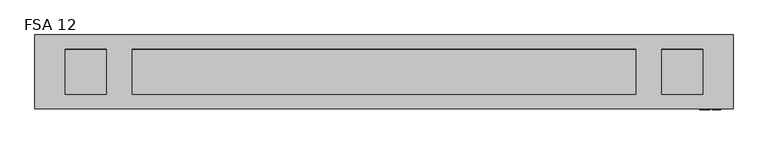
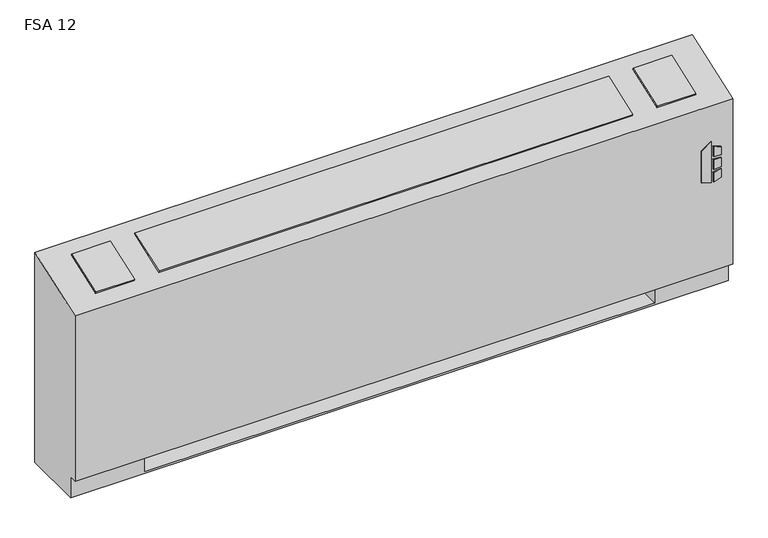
"""IFC4 building model written with IfcOpenShell, lengths in millimetres: proxy geometry, Vertical_Fan_Coil_Unit_-_FSA_-_IEC_-_2-Pipe_TS-FR_LH_2022 : FSA 12."""

from ifc_helpers import new_model, si_unit, point, frame, frame_2d, origin, place, context, project, spatial, polyline, circle_curve, trimmed, segment, composite_curve, outline, extrude, source, transform, mapped, element, save
from ifc_brep_helpers import plane_surface, revolved_surface, advanced_brep


def fsa_12_32ce60d5(model_context):
    return source(origin(), model_context, "Body", "SolidModel", [
        extrude(outline(polyline([(391.6086829, 1128.7868862), (381.6606126, 1160.9602728), (523.831537, 1160.9602728), (500.8095309, 1128.7868862), (391.6086829, 1128.7868862)])), frame((0.0, 12.7, 0.0), z_axis=(0.0, 1.0, 0.0), x_axis=(0.0, 0.0, 1.0)), (0.0, 0.0, 1.0), 3.175),
        extrude(outline(polyline([(470.6079683, 1167.7186058), (467.4055757, 1193.8), (496.6344168, 1193.8), (504.6988318, 1167.7186058), (470.6079683, 1167.7186058)])), frame((0.0, 12.7, 0.0), z_axis=(0.0, 1.0, 0.0), x_axis=(0.0, 0.0, 1.0)), (0.0, 0.0, 1.0), 3.175),
        extrude(outline(polyline([(418.7444414, 1193.8), (415.0789404, 1167.7186058), (381.6606126, 1167.7186058), (390.2948498, 1193.8), (418.7444414, 1193.8)])), frame((0.0, 12.7, 0.0), z_axis=(0.0, 1.0, 0.0), x_axis=(0.0, 0.0, 1.0)), (0.0, 0.0, 1.0), 3.175),
        extrude(outline(polyline([(458.0596028, 1193.8), (460.3414292, 1167.7186058), (424.4038806, 1167.7186058), (427.1451456, 1193.8), (458.0596028, 1193.8)])), frame((0.0, 12.7, 0.0), z_axis=(0.0, 1.0, 0.0), x_axis=(0.0, 0.0, 1.0)), (0.0, 0.0, 1.0), 3.175),
        extrude(outline(polyline([(1111.25, 223.266), (1111.25, 81.534), (990.6, 81.534), (990.6, 223.266), (1111.25, 223.266)])), frame((0.0, 0.0, 327.025), z_axis=(0.0, 0.0, 1.0), x_axis=(1.0, 0.0, 0.0)), (0.0, 0.0, 1.0), 260.35),
        extrude(outline(composite_curve([segment(trimmed(circle_curve(frame_2d((-749.3, 130.175)), 9.525), [point((-758.825, 130.175))], [point((-739.775, 130.175))], False, "CARTESIAN"), True, "CONTINUOUS"), segment(trimmed(circle_curve(frame_2d((-749.3, 130.175)), 9.525), [point((-739.775, 130.175))], [point((-758.825, 130.175))], False, "CARTESIAN"), True, "CONTINUOUS")], self_intersect=False)), frame((0.0, 0.0, 101.6), z_axis=(0.0, 0.0, 1.0), x_axis=(1.0, 0.0, 0.0)), (0.0, 0.0, 1.0), 25.4),
        extrude(outline(polyline([(-850.9, 63.5), (-850.9, 196.85), (-685.8, 196.85), (-685.8, 63.5), (-850.9, 63.5)])), frame((0.0, 0.0, 127.0), z_axis=(0.0, 0.0, 1.0), x_axis=(1.0, 0.0, 0.0)), (0.0, 0.0, 1.0), 50.8),
        extrude(outline(polyline([(0.0, -146.0500001), (0.0, 0.0), (127.0, 0.0), (127.0, -146.0500001), (0.0, -146.0500001)])), frame((-832.993, 200.4217127, 714.3418685), z_axis=(0.0, -0.3396444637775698, 0.9405538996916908), x_axis=(1.0, 0.0, 0.0)), (0.0, 0.0, 1.0), 6.35),
        extrude(outline(polyline([(0.0, -146.0500001), (0.0, 0.0), (1555.75, 0.0), (1555.75, -146.0500001), (0.0, -146.0500001)])), frame((930.275, 63.0538156, 664.7367945), z_axis=(0.0, -0.33964446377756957, 0.9405538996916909), x_axis=(-1.0, 0.0, 0.0)), (0.0, 0.0, 1.0), 6.35),
        extrude(outline(polyline([(0.0, -146.0500001), (0.0, 0.0), (127.0, 0.0), (127.0, -146.0500001), (0.0, -146.0500001)])), frame((1137.793, 63.0538156, 664.7367945), z_axis=(0.0, -0.3396444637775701, 0.9405538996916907), x_axis=(-1.0, 0.0, 0.0)), (0.0, 0.0, 1.0), 6.35),
        extrude(outline(composite_curve([segment(trimmed(circle_curve(frame_2d((109.347, 456.819)), 7.9375), [point((109.347, 464.7565))], [point((109.347, 448.8815))], False, "CARTESIAN"), True, "CONTINUOUS"), segment(trimmed(circle_curve(frame_2d((109.347, 456.819)), 7.9375), [point((109.347, 448.8815))], [point((109.347, 464.7565))], False, "CARTESIAN"), True, "CONTINUOUS")], self_intersect=False)), frame((-736.6, 0.0, 0.0), z_axis=(1.0, 0.0, 0.0), x_axis=(0.0, 1.0, 0.0)), (0.0, 0.0, 1.0), 50.8),
        extrude(outline(composite_curve([segment(trimmed(circle_curve(frame_2d((157.4546, 429.4632)), 7.9375), [point((157.4546, 437.4007))], [point((157.4546, 421.5257))], False, "CARTESIAN"), True, "CONTINUOUS"), segment(trimmed(circle_curve(frame_2d((157.4546, 429.4632)), 7.9375), [point((157.4546, 421.5257))], [point((157.4546, 437.4007))], False, "CARTESIAN"), True, "CONTINUOUS")], self_intersect=False)), frame((-736.6, 0.0, 0.0), z_axis=(1.0, 0.0, 0.0), x_axis=(0.0, 1.0, 0.0)), (0.0, 0.0, 1.0), 50.8),
        advanced_brep(
        [(-927.1, 244.475, 0.0), (1231.9, 244.475, 0.0), (1231.9, 41.275, 0.0), (-927.1, 41.275, 0.0), (-927.1, 244.475, 730.25), (1231.9, 244.475, 730.25), (990.6, 244.475, 73.025), (1219.2, 244.475, 73.025), (1219.2, 244.475, 654.05), (990.6, 244.475, 654.05), (990.6, 244.475, 414.8650565), (1019.175, 244.475, 414.8650565), (1019.175, 244.475, 385.2349435), (990.6, 244.475, 385.2349435), (990.6, 244.475, 287.3375), (1019.175, 244.475, 287.3375), (1019.175, 244.475, 258.7625), (990.6, 244.475, 258.7625), (990.6, 244.475, 141.2875), (1019.175, 244.475, 141.2875), (1019.175, 244.475, 112.7125), (990.6, 244.475, 112.7125), (-685.8, 244.475, 654.05), (-914.4, 244.475, 654.05), (-914.4, 244.475, 73.025), (-685.8, 244.475, 73.025), (-685.8, 244.475, 112.7125), (-714.375, 244.475, 112.7125), (-714.375, 244.475, 141.2875), (-685.8, 244.475, 141.2875), (-685.8, 244.475, 258.7625), (-714.375, 244.475, 258.7625), (-714.375, 244.475, 287.3375), (-685.8, 244.475, 287.3375), (-685.8, 244.475, 385.2349435), (-714.375, 244.475, 385.2349435), (-714.375, 244.475, 414.8650565), (-685.8, 244.475, 414.8650565), (1008.8626, 244.475, 127.0), (997.7374, 244.475, 127.0), (1008.8626, 244.475, 400.05), (997.7374, 244.475, 400.05), (1008.8626, 244.475, 273.05), (997.7374, 244.475, 273.05), (-692.9374, 244.475, 127.0), (-704.0626, 244.475, 127.0), (-692.9374, 244.475, 273.05), (-704.0626, 244.475, 273.05), (-692.9374, 244.475, 400.05), (-704.0626, 244.475, 400.05), (-927.1, 41.275, 73.025), (-927.1, 15.875, 73.025), (-927.1, 15.875, 647.7), (1231.9, 15.875, 73.025), (1231.9, 15.875, 647.7), (1231.9, 41.275, 73.025), (-685.8, 41.275, 73.025), (-685.8, 225.425, 73.025), (990.6, 225.425, 73.025), (990.6, 41.275, 73.025), (990.6, 41.275, 6.35), (-685.8, 41.275, 6.35), (990.6, 41.275, 654.05), (1219.2, 41.275, 654.05), (1219.2, 41.275, 73.025), (990.6, 41.275, 73.025), (-685.8, 41.275, 654.05), (-685.8, 41.275, 73.025), (-914.4, 41.275, 73.025), (-914.4, 41.275, 654.05), (990.6, 225.425, 73.025), (990.6, 238.125, 112.7125), (990.6, 238.125, 141.2875), (990.6, 238.125, 258.7625), (990.6, 238.125, 287.3375), (990.6, 238.125, 385.2349435), (990.6, 238.125, 414.8650565), (-685.8, 225.425, 73.025), (-685.8, 238.125, 414.8650565), (-685.8, 238.125, 385.2349435), (-685.8, 238.125, 287.3375), (-685.8, 238.125, 258.7625), (-685.8, 238.125, 141.2875), (-685.8, 238.125, 112.7125), (-685.8, 225.425, 6.35), (990.6, 225.425, 6.35), (1019.175, 238.125, 112.7125), (1019.175, 238.125, 141.2875), (997.7374, 238.125, 127.0), (1008.8626, 238.125, 127.0), (1019.175, 238.125, 258.7625), (1019.175, 238.125, 287.3375), (997.7374, 238.125, 273.05), (1008.8626, 238.125, 273.05), (1019.175, 238.125, 385.2349435), (1019.175, 238.125, 414.8650565), (997.7374, 238.125, 400.05), (1008.8626, 238.125, 400.05), (-714.375, 238.125, 141.2875), (-714.375, 238.125, 112.7125), (-704.0626, 238.125, 127.0), (-692.9374, 238.125, 127.0), (-714.375, 238.125, 287.3375), (-714.375, 238.125, 258.7625), (-704.0626, 238.125, 273.05), (-692.9374, 238.125, 273.05), (-714.375, 238.125, 414.8650565), (-714.375, 238.125, 385.2349435), (-704.0626, 238.125, 400.05), (-692.9374, 238.125, 400.05)],
        [
            (0, 1),
            (1, 2),
            (2, 3),
            (3, 0),
            (0, 4),
            (4, 5),
            (5, 1),
            (6, 7),
            (7, 8),
            (8, 9),
            (9, 10),
            (10, 11),
            (11, 12),
            (12, 13),
            (13, 14),
            (14, 15),
            (15, 16),
            (16, 17),
            (17, 18),
            (18, 19),
            (19, 20),
            (20, 21),
            (21, 6),
            (22, 23),
            (23, 24),
            (24, 25),
            (25, 26),
            (26, 27),
            (27, 28),
            (28, 29),
            (29, 30),
            (30, 31),
            (31, 32),
            (32, 33),
            (33, 34),
            (34, 35),
            (35, 36),
            (36, 37),
            (37, 22),
            (38, 39, circle_curve(frame((1003.3, 244.475, 127.0), z_axis=(0.0, -1.0, 0.0), x_axis=(-1.0, 0.0, 0.0)), 5.5626)),
            (39, 38, circle_curve(frame((1003.3, 244.475, 127.0), z_axis=(0.0, -1.0, 0.0), x_axis=(-1.0, 0.0, 0.0)), 5.5626)),
            (40, 41, circle_curve(frame((1003.3, 244.475, 400.05), z_axis=(0.0, -1.0, 0.0), x_axis=(-1.0, 0.0, 0.0)), 5.5626)),
            (41, 40, circle_curve(frame((1003.3, 244.475, 400.05), z_axis=(0.0, -1.0, 0.0), x_axis=(-1.0, 0.0, 0.0)), 5.5626)),
            (42, 43, circle_curve(frame((1003.3, 244.475, 273.05), z_axis=(0.0, -1.0, 0.0), x_axis=(-1.0, 0.0, 0.0)), 5.5626)),
            (43, 42, circle_curve(frame((1003.3, 244.475, 273.05), z_axis=(0.0, -1.0, 0.0), x_axis=(-1.0, 0.0, 0.0)), 5.5626)),
            (44, 45, circle_curve(frame((-698.5, 244.475, 127.0), z_axis=(0.0, -1.0, 0.0), x_axis=(-1.0, 0.0, 0.0)), 5.5626)),
            (45, 44, circle_curve(frame((-698.5, 244.475, 127.0), z_axis=(0.0, -1.0, 0.0), x_axis=(-1.0, 0.0, 0.0)), 5.5626)),
            (46, 47, circle_curve(frame((-698.5, 244.475, 273.05), z_axis=(0.0, -1.0, 0.0), x_axis=(-1.0, 0.0, 0.0)), 5.5626)),
            (47, 46, circle_curve(frame((-698.5, 244.475, 273.05), z_axis=(0.0, -1.0, 0.0), x_axis=(-1.0, 0.0, 0.0)), 5.5626)),
            (48, 49, circle_curve(frame((-698.5, 244.475, 400.05), z_axis=(0.0, -1.0, 0.0), x_axis=(-1.0, 0.0, 0.0)), 5.5626)),
            (49, 48, circle_curve(frame((-698.5, 244.475, 400.05), z_axis=(0.0, -1.0, 0.0), x_axis=(-1.0, 0.0, 0.0)), 5.5626)),
            (3, 50),
            (50, 51),
            (51, 52),
            (52, 4),
            (51, 53),
            (53, 54),
            (54, 52),
            (5, 54),
            (53, 55),
            (55, 2),
            (50, 56),
            (56, 57),
            (57, 58),
            (58, 59),
            (59, 55),
            (59, 60),
            (60, 61),
            (61, 56),
            (62, 63),
            (63, 64),
            (64, 65),
            (65, 62),
            (66, 67),
            (67, 68),
            (68, 69),
            (69, 66),
            (65, 70),
            (70, 6),
            (21, 71),
            (71, 72),
            (72, 18),
            (17, 73),
            (73, 74),
            (74, 14),
            (13, 75),
            (75, 76),
            (76, 10),
            (9, 62),
            (64, 7),
            (63, 8),
            (69, 23),
            (22, 66),
            (68, 24),
            (67, 77),
            (77, 25),
            (37, 78),
            (78, 79),
            (79, 34),
            (33, 80),
            (80, 81),
            (81, 30),
            (29, 82),
            (82, 83),
            (83, 26),
            (57, 84),
            (84, 85),
            (85, 58),
            (85, 60),
            (84, 61),
            (71, 86),
            (86, 87),
            (87, 72),
            (88, 89, circle_curve(frame((1003.3, 238.125, 127.0), z_axis=(0.0, 1.0, 0.0), x_axis=(-1.0, 0.0, 0.0)), 5.5626)),
            (89, 88, circle_curve(frame((1003.3, 238.125, 127.0), z_axis=(0.0, 1.0, 0.0), x_axis=(-1.0, 0.0, 0.0)), 5.5626)),
            (73, 90),
            (90, 91),
            (91, 74),
            (92, 93, circle_curve(frame((1003.3, 238.125, 273.05), z_axis=(0.0, 1.0, 0.0), x_axis=(-1.0, 0.0, 0.0)), 5.5626)),
            (93, 92, circle_curve(frame((1003.3, 238.125, 273.05), z_axis=(0.0, 1.0, 0.0), x_axis=(-1.0, 0.0, 0.0)), 5.5626)),
            (75, 94),
            (94, 95),
            (95, 76),
            (96, 97, circle_curve(frame((1003.3, 238.125, 400.05), z_axis=(0.0, 1.0, 0.0), x_axis=(-1.0, 0.0, 0.0)), 5.5626)),
            (97, 96, circle_curve(frame((1003.3, 238.125, 400.05), z_axis=(0.0, 1.0, 0.0), x_axis=(-1.0, 0.0, 0.0)), 5.5626)),
            (98, 99),
            (99, 83),
            (82, 98),
            (100, 101, circle_curve(frame((-698.5, 238.125, 127.0), z_axis=(0.0, 1.0, 0.0), x_axis=(-1.0, 0.0, 0.0)), 5.5626)),
            (101, 100, circle_curve(frame((-698.5, 238.125, 127.0), z_axis=(0.0, 1.0, 0.0), x_axis=(-1.0, 0.0, 0.0)), 5.5626)),
            (102, 103),
            (103, 81),
            (80, 102),
            (104, 105, circle_curve(frame((-698.5, 238.125, 273.05), z_axis=(0.0, 1.0, 0.0), x_axis=(-1.0, 0.0, 0.0)), 5.5626)),
            (105, 104, circle_curve(frame((-698.5, 238.125, 273.05), z_axis=(0.0, 1.0, 0.0), x_axis=(-1.0, 0.0, 0.0)), 5.5626)),
            (106, 107),
            (107, 79),
            (78, 106),
            (108, 109, circle_curve(frame((-698.5, 238.125, 400.05), z_axis=(0.0, 1.0, 0.0), x_axis=(-1.0, 0.0, 0.0)), 5.5626)),
            (109, 108, circle_curve(frame((-698.5, 238.125, 400.05), z_axis=(0.0, 1.0, 0.0), x_axis=(-1.0, 0.0, 0.0)), 5.5626)),
            (87, 19),
            (86, 20),
            (91, 15),
            (90, 16),
            (95, 11),
            (94, 12),
            (28, 98),
            (99, 27),
            (32, 102),
            (103, 31),
            (36, 106),
            (107, 35),
            (88, 39),
            (38, 89),
            (96, 41),
            (40, 97),
            (92, 43),
            (42, 93),
            (100, 45),
            (44, 101),
            (104, 47),
            (46, 105),
            (108, 49),
            (48, 109),
        ],
        [
            plane_surface(frame((-927.1, 244.475, 0.0), z_axis=(0.0, 0.0, -1.0), x_axis=(1.0, 0.0, 0.0))),
            plane_surface(frame((1231.9, 244.475, 730.25), z_axis=(0.0, 1.0, 0.0), x_axis=(0.0, 0.0, -1.0))),
            plane_surface(frame((-927.1, 244.475, 730.25), z_axis=(-1.0, 0.0, 0.0), x_axis=(0.0, 0.0, -1.0))),
            plane_surface(frame((-927.1, 15.875, 730.25), z_axis=(0.0, -1.0, 0.0), x_axis=(0.0, 0.0, -1.0))),
            plane_surface(frame((1231.9, 15.875, 730.25), z_axis=(1.0, 0.0, 0.0), x_axis=(0.0, 0.0, -1.0))),
            plane_surface(frame((-927.1, 15.875, 73.025), z_axis=(0.0, 0.0, -1.0), x_axis=(1.0, 0.0, 0.0))),
            plane_surface(frame((-927.1, 41.275, 73.025), z_axis=(0.0, -1.0, 0.0), x_axis=(1.0, 0.0, 0.0))),
            plane_surface(frame((990.6, 41.275, 654.05), z_axis=(0.0, 1.0, 0.0), x_axis=(0.0, 0.0, -1.0))),
            plane_surface(frame((990.6, 41.275, 654.05), z_axis=(1.0, 0.0, 0.0), x_axis=(0.0, 1.0, 0.0))),
            plane_surface(frame((990.6, 41.275, 73.025), z_axis=(0.0, 0.0, 1.0), x_axis=(0.0, 1.0, 0.0))),
            plane_surface(frame((1219.2, 41.275, 73.025), z_axis=(-1.0, 0.0, 0.0), x_axis=(0.0, 1.0, 0.0))),
            plane_surface(frame((1219.2, 41.275, 654.05), z_axis=(0.0, 0.0, -1.0), x_axis=(0.0, 1.0, 0.0))),
            plane_surface(frame((-685.8, 41.275, 654.05), z_axis=(0.0, 0.0, -1.0), x_axis=(0.0, 1.0, 0.0))),
            plane_surface(frame((-914.4, 41.275, 654.05), z_axis=(1.0, 0.0, 0.0), x_axis=(0.0, 1.0, 0.0))),
            plane_surface(frame((-914.4, 41.275, 73.025), z_axis=(0.0, 0.0, 1.0), x_axis=(0.0, 1.0, 0.0))),
            plane_surface(frame((-685.8, 41.275, 73.025), z_axis=(-1.0, 0.0, 0.0), x_axis=(0.0, 1.0, 0.0))),
            plane_surface(frame((990.6, 225.425, 73.025), z_axis=(0.0, -1.0, 0.0), x_axis=(0.0, 0.0, -1.0))),
            plane_surface(frame((990.6, 225.425, 73.025), z_axis=(-1.0, 0.0, 0.0), x_axis=(0.0, -1.0, 0.0))),
            plane_surface(frame((990.6, 225.425, 6.35), z_axis=(0.0, 0.0, 1.0), x_axis=(0.0, -1.0, 0.0))),
            plane_surface(frame((-685.8, 225.425, 6.35), z_axis=(1.0, 0.0, 0.0), x_axis=(0.0, -1.0, 0.0))),
            plane_surface(frame((1019.175, 238.125, 141.2875), z_axis=(0.0, -1.0, 0.0), x_axis=(-1.0, 0.0, 0.0))),
            plane_surface(frame((990.6, 244.475, 141.2875), z_axis=(0.0, 0.0, 1.0), x_axis=(0.0, -1.0, 0.0))),
            plane_surface(frame((1019.175, 244.475, 141.2875), z_axis=(1.0, 0.0, 0.0), x_axis=(0.0, -1.0, 0.0))),
            plane_surface(frame((1019.175, 244.475, 112.7125), z_axis=(0.0, 0.0, -1.0), x_axis=(0.0, -1.0, 0.0))),
            plane_surface(frame((990.6, 244.475, 287.3375), z_axis=(0.0, 0.0, 1.0), x_axis=(0.0, -1.0, 0.0))),
            plane_surface(frame((1019.175, 244.475, 287.3375), z_axis=(1.0, 0.0, 0.0), x_axis=(0.0, -1.0, 0.0))),
            plane_surface(frame((1019.175, 244.475, 258.7625), z_axis=(0.0, 0.0, -1.0), x_axis=(0.0, -1.0, 0.0))),
            plane_surface(frame((990.6, 244.475, 414.8650565), z_axis=(0.0, 0.0, 1.0), x_axis=(0.0, -1.0, 0.0))),
            plane_surface(frame((1019.175, 244.475, 414.8650565), z_axis=(1.0, 0.0, 0.0), x_axis=(0.0, -1.0, 0.0))),
            plane_surface(frame((1019.175, 244.475, 385.2349435), z_axis=(0.0, 0.0, -1.0), x_axis=(0.0, -1.0, 0.0))),
            plane_surface(frame((-714.375, 244.475, 141.2875), z_axis=(0.0, 0.0, 1.0), x_axis=(0.0, -1.0, 0.0))),
            plane_surface(frame((-685.8, 244.475, 112.7125), z_axis=(0.0, 0.0, -1.0), x_axis=(0.0, -1.0, 0.0))),
            plane_surface(frame((-714.375, 244.475, 112.7125), z_axis=(-1.0, 0.0, 0.0), x_axis=(0.0, -1.0, 0.0))),
            plane_surface(frame((-714.375, 244.475, 287.3375), z_axis=(0.0, 0.0, 1.0), x_axis=(0.0, -1.0, 0.0))),
            plane_surface(frame((-685.8, 244.475, 258.7625), z_axis=(0.0, 0.0, -1.0), x_axis=(0.0, -1.0, 0.0))),
            plane_surface(frame((-714.375, 244.475, 258.7625), z_axis=(-1.0, 0.0, 0.0), x_axis=(0.0, -1.0, 0.0))),
            plane_surface(frame((-714.375, 244.475, 414.8650565), z_axis=(0.0, 0.0, 1.0), x_axis=(0.0, -1.0, 0.0))),
            plane_surface(frame((-685.8, 244.475, 385.2349435), z_axis=(0.0, 0.0, -1.0), x_axis=(0.0, -1.0, 0.0))),
            plane_surface(frame((-714.375, 244.475, 385.2349435), z_axis=(-1.0, 0.0, 0.0), x_axis=(0.0, -1.0, 0.0))),
            revolved_surface(polyline([(997.7374, 238.125, 127.0), (997.7374, 244.475, 127.0)]), (1003.3, 244.475, 127.0), (0.0, -1.0, 0.0)),
            revolved_surface(polyline([(997.7374, 238.125, 400.05), (997.7374, 244.475, 400.05)]), (1003.3, 244.475, 400.05), (0.0, -1.0, 0.0)),
            revolved_surface(polyline([(997.7374, 238.125, 273.05), (997.7374, 244.475, 273.05)]), (1003.3, 244.475, 273.05), (0.0, -1.0, 0.0)),
            revolved_surface(polyline([(-704.0626, 238.125, 127.0), (-704.0626, 244.475, 127.0)]), (-698.5, 244.475, 127.0), (0.0, -1.0, 0.0)),
            revolved_surface(polyline([(-704.0626, 238.125, 273.05), (-704.0626, 244.475, 273.05)]), (-698.5, 244.475, 273.05), (0.0, -1.0, 0.0)),
            revolved_surface(polyline([(-704.0626, 238.125, 400.05), (-704.0626, 244.475, 400.05)]), (-698.5, 244.475, 400.05), (0.0, -1.0, 0.0)),
            plane_surface(frame((-927.1, 244.475, 730.25), z_axis=(0.0, -0.33964446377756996, 0.9405538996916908), x_axis=(1.0, 0.0, 0.0))),
        ],
        [
            (0, [[1, 2, 3, 4]]),
            (1, [[-1, 5, 6, 7], [8, 9, 10, 11, 12, 13, 14, 15, 16, 17, 18, 19, 20, 21, 22, 23], [24, 25, 26, 27, 28, 29, 30, 31, 32, 33, 34, 35, 36, 37, 38, 39], [40, 41], [42, 43], [44, 45], [46, 47], [48, 49], [50, 51]]),
            (2, [[-5, -4, 52, 53, 54, 55]]),
            (3, [[56, 57, 58, -54]]),
            (4, [[-7, 59, -57, 60, 61, -2]]),
            (5, [[-53, 62, 63, 64, 65, 66, -60, -56]]),
            (6, [[-3, -61, -66, 67, 68, 69, -62, -52]]),
            (7, [[70, 71, 72, 73]]),
            (7, [[74, 75, 76, 77]]),
            (8, [[-73, 78, 79, -23, 80, 81, 82, -19, 83, 84, 85, -15, 86, 87, 88, -11, 89]]),
            (9, [[-72, 90, -8, -79, -78]]),
            (10, [[-71, 91, -9, -90]]),
            (11, [[-70, -89, -10, -91]]),
            (12, [[-77, 92, -24, 93]]),
            (13, [[-76, 94, -25, -92]]),
            (14, [[-75, 95, 96, -26, -94]]),
            (15, [[-74, -93, -39, 97, 98, 99, -35, 100, 101, 102, -31, 103, 104, 105, -27, -96, -95]]),
            (16, [[-64, 106, 107, 108]]),
            (17, [[-108, 109, -67, -65]]),
            (18, [[-107, 110, -68, -109]]),
            (19, [[-106, -63, -69, -110]]),
            (20, [[111, 112, 113, -81], [114, 115]]),
            (20, [[116, 117, 118, -84], [119, 120]]),
            (20, [[121, 122, 123, -87], [124, 125]]),
            (20, [[126, 127, -104, 128], [129, 130]]),
            (20, [[131, 132, -101, 133], [134, 135]]),
            (20, [[136, 137, -98, 138], [139, 140]]),
            (21, [[-113, 141, -20, -82]]),
            (22, [[-112, 142, -21, -141]]),
            (23, [[-111, -80, -22, -142]]),
            (24, [[-118, 143, -16, -85]]),
            (25, [[-117, 144, -17, -143]]),
            (26, [[-116, -83, -18, -144]]),
            (27, [[-123, 145, -12, -88]]),
            (28, [[-122, 146, -13, -145]]),
            (29, [[-121, -86, -14, -146]]),
            (30, [[-128, -103, -30, 147]]),
            (31, [[-127, 148, -28, -105]]),
            (32, [[-126, -147, -29, -148]]),
            (33, [[-133, -100, -34, 149]]),
            (34, [[-132, 150, -32, -102]]),
            (35, [[-131, -149, -33, -150]]),
            (36, [[-138, -97, -38, 151]]),
            (37, [[-137, 152, -36, -99]]),
            (38, [[-136, -151, -37, -152]]),
            (39, [[153, -40, 154, -114]]),
            (39, [[-153, -115, -154, -41]]),
            (40, [[155, -42, 156, -124]]),
            (40, [[-155, -125, -156, -43]]),
            (41, [[157, -44, 158, -119]]),
            (41, [[-157, -120, -158, -45]]),
            (42, [[159, -46, 160, -129]]),
            (42, [[-159, -130, -160, -47]]),
            (43, [[161, -48, 162, -134]]),
            (43, [[-161, -135, -162, -49]]),
            (44, [[163, -50, 164, -139]]),
            (44, [[-163, -140, -164, -51]]),
            (45, [[-6, -55, -58, -59]]),
        ],
    ),
    ])


if __name__ == "__main__":
    model = new_model("IFC4")
    model_context = context("Model", 3, world=origin())
    ifc_project = project(units=[si_unit("LENGTHUNIT", "METRE", prefix="MILLI")], contexts=[model_context])
    site = spatial("IfcSite", under=ifc_project)
    building = spatial("IfcBuilding", under=site)
    placement = place(None, origin())
    fsa_12_shape = fsa_12_32ce60d5(model_context)
    element("IfcBuildingElementProxy", 1, Name="Vertical_Fan_Coil_Unit_-_FSA_-_IEC_-_2-Pipe_TS-FR_LH_2022 : FSA 12", ObjectType="Vertical_Fan_Coil_Unit_-_FSA_-_IEC_-_2-Pipe_TS-FR_LH_2022 : FSA 12", at=placement, inside=building, context=model_context, shape_type="MappedRepresentation", body=[
        mapped(fsa_12_shape, transform((0.0, 0.0, 0.0), x_axis=(1.0, 0.0, 0.0), y_axis=(0.0, 1.0, 0.0), z_axis=(0.0, 0.0, 1.0))),
    ])
    save(model, "model.ifc")
